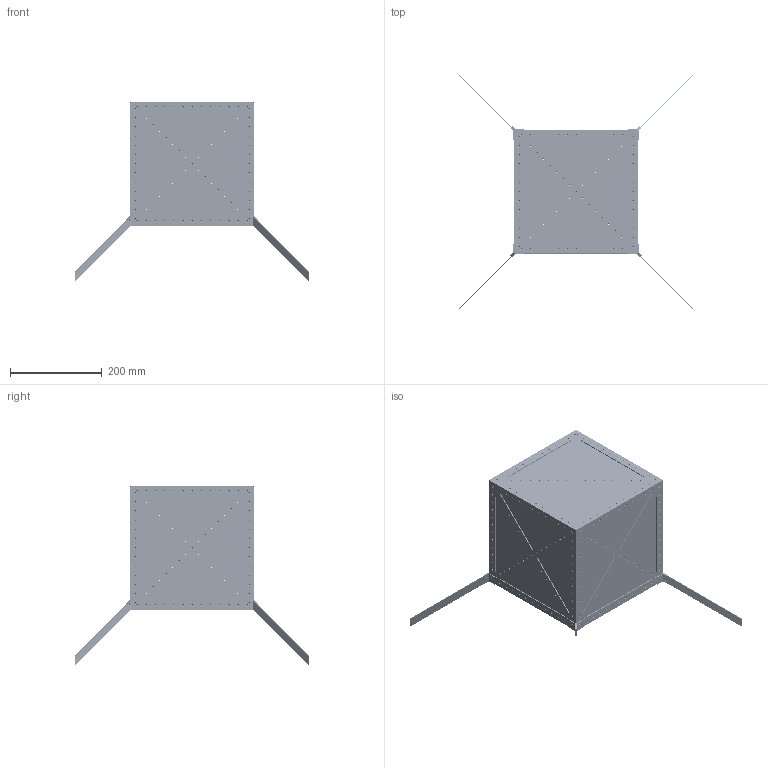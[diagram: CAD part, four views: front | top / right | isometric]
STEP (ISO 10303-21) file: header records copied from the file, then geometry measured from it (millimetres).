
FILE_DESCRIPTION (( 'STEP AP214' ), '1' );
FILE_NAME ('ASSIEME scatola grande_2.STEP', '2016-02-26T17:49:27', ( '' ), ( '' ), 'SwSTEP 2.0', 'SolidWorks 2012', '' );
FILE_SCHEMA (( 'AUTOMOTIVE_DESIGN' ));
Length unit declared in the file: millimetre
Products named in the file (15): vite M2 x 4; SC61; SC43; SC12; ASSIEME scatola grande_2; SC64; Assieme new distanziali lunghi; SC9; vite M2 x 8; SC10_2; SC11; SC40_2; SC62; SC63; SC36
Assembly tree (40 placements, depth 3):
  ASSIEME scatola grande_2
    SC9
    SC12  x4
    SC11  x11
    SC36
    SC43
    SC64
    Assieme new distanziali lunghi  x4
      SC62
      SC63
      SC61
    SC40_2  x2
    SC10_2  x10
    vite M2 x 4
    vite M2 x 8
Bounding box: 510.76 x 510.76 x 390 mm (x, y, z)
Volume: 1225273.9 mm3; surface area: 1292633.5 mm2
Topology: 45 solids, 45 shells, 3835 faces, 10668 edges, 6937 vertices
Faces by surface type: cylinder 2074, cone 1092, plane 549, bspline 120
Entity records: 41110 total; most frequent: CARTESIAN_POINT 8226, DIRECTION 7172, ORIENTED_EDGE 6364, EDGE_CURVE 3182, AXIS2_PLACEMENT_3D 2917, VERTEX_POINT 2079, EDGE_LOOP 1841, CIRCLE 1772
